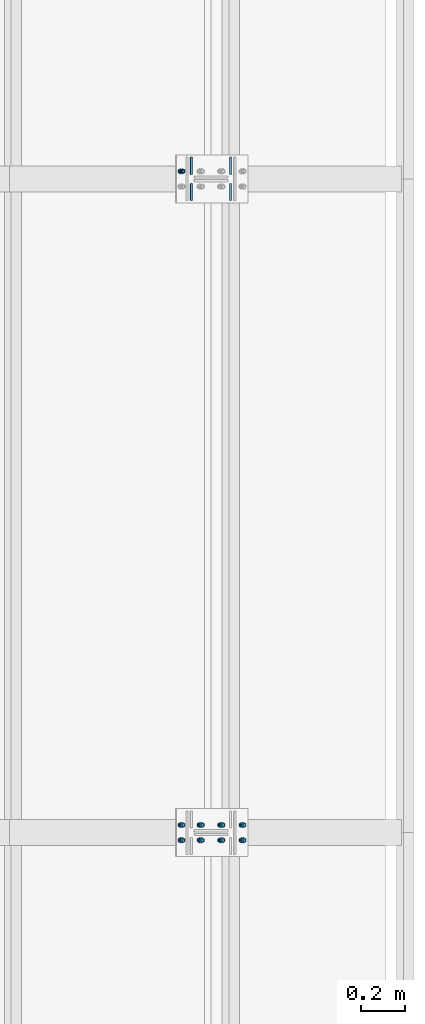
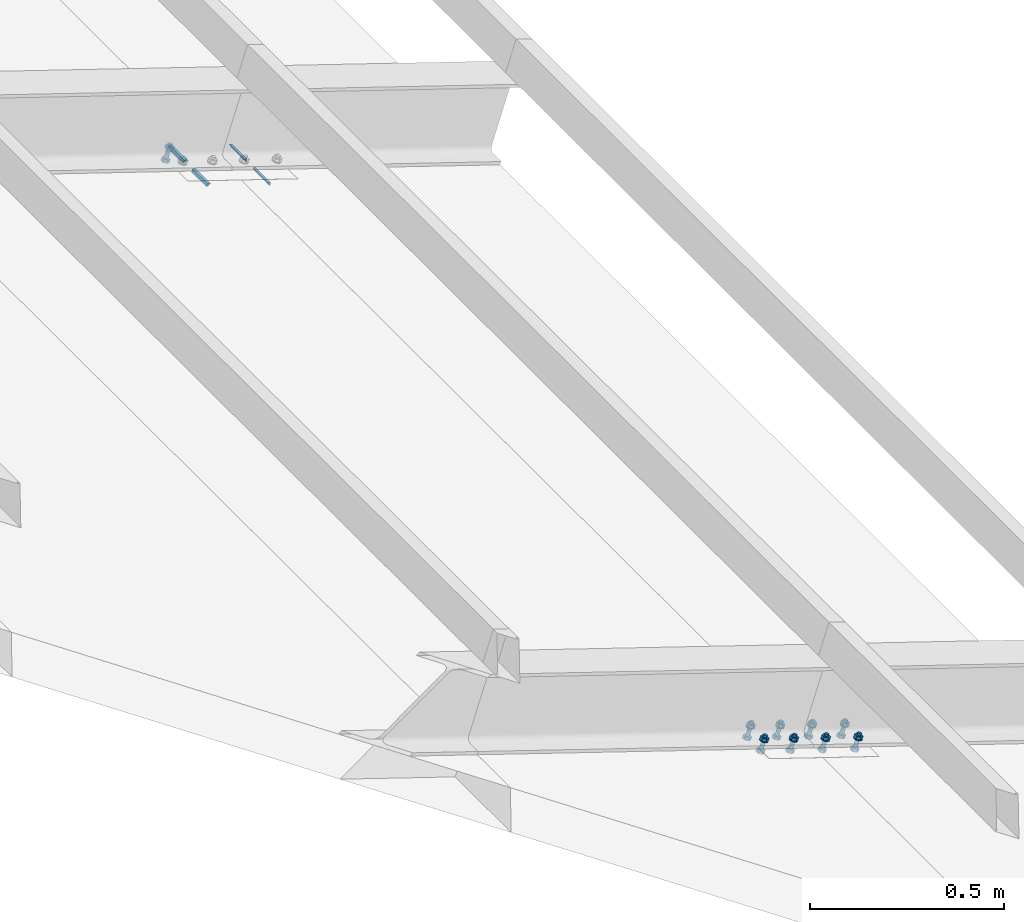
# One storey, part 31 of 53: 35 mechanical fasteners, 8 fasteners.
"""IFC4 building model written with IfcOpenShell, lengths in metres."""

from ifc_helpers import new_model, si_unit, frame, origin_with_axes, place, context, project, spatial, polyline, outline, extrude, type_object, element, save


model = new_model("IFC4")

# Units and contexts
model_context = context("Model", 3, precision=1e-05, world=origin_with_axes())
ifc_project = project(units=[si_unit("LENGTHUNIT", "METRE"), si_unit("AREAUNIT", "SQUARE_METRE"), si_unit("VOLUMEUNIT", "CUBIC_METRE"), si_unit("MASSUNIT", "GRAM", prefix="KILO"), si_unit("TIMEUNIT", "SECOND"), si_unit("PLANEANGLEUNIT", "RADIAN"), si_unit("SOLIDANGLEUNIT", "STERADIAN"), si_unit("THERMODYNAMICTEMPERATUREUNIT", "DEGREE_CELSIUS")], contexts=[model_context])

# Site, building, storey
placement_1 = place(None, origin_with_axes())
site = spatial("IfcSite", under=ifc_project, at=placement_1, Name="Italia", CompositionType="ELEMENT")
building = spatial("IfcBuilding", under=site, at=placement_1, Name="Capannone", CompositionType="ELEMENT")
storey_placement = place(None, frame((0.0, 0.0, 5.550000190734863), z_axis=(0.0, 0.0, 1.0), x_axis=(1.0, 0.0, 0.0)))
storey = spatial("IfcBuildingStorey", under=building, at=storey_placement, Name="Storey 1", CompositionType="ELEMENT", Elevation=5.550000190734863)

# Mechanical fasteners
mechanical_fastener_type_1 = type_object("IfcMechanicalFastenerType", Name="Collegamenti 0102_0002 0104_0004 0106_0006 0108_0008 0110_0010 0112_0012", PredefinedType="BOLT")
placement_2 = place(placement_1, origin_with_axes())
mechanical_fastener_1_placement = place(placement_2, origin_with_axes())
element("IfcMechanicalFastener", 1, at=mechanical_fastener_1_placement, inside=storey, type_object=mechanical_fastener_type_1, Name="Collegamenti 0102_0002 0104_0004 0106_0006 0108_0008 0110_0010 0112_0012", NominalDiameter=0.0119998, context=model_context, shape_type="SweptSolid", body=[
    extrude(outline(polyline([(0.0, 0.0), (-0.0119998, 0.0), (-0.0179999, 0.0103931), (-0.0119998, 0.0207853), (0.0, 0.0207853), (0.00600004, 0.0103931), (0.0, 0.0)])), frame((13.8697, 3.029, 5.57702), z_axis=(-0.312231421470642, 0.0, -0.950006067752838), x_axis=(0.0, -1.0, 0.0)), (0.0, 0.0, 1.0), 0.00959993),
])
mechanical_fastener_type_2 = type_object("IfcMechanicalFastenerType", Name="Collegamenti 0102_0002 0104_0004 0106_0006 0108_0008 0110_0010 0112_0012", PredefinedType="BOLT")
mechanical_fastener_2_placement = place(placement_2, origin_with_axes())
element("IfcMechanicalFastener", 2, at=mechanical_fastener_2_placement, inside=storey, type_object=mechanical_fastener_type_2, Name="Collegamenti 0102_0002 0104_0004 0106_0006 0108_0008 0110_0010 0112_0012", NominalDiameter=0.012, context=model_context, shape_type="SweptSolid", body=[
    extrude(outline(polyline([(0.0, 0.0), (-0.000204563, -0.00155354), (-0.000803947, -0.00300121), (-0.00175738, -0.0042429), (-0.00300002, -0.00519562), (-0.00444722, -0.00579548), (-0.00600004, -0.00599957), (-0.00755286, -0.00579548), (-0.00900006, -0.00519562), (-0.0102427, -0.0042429), (-0.0111961, -0.00300121), (-0.0117955, -0.00155354), (-0.0120001, 0.0), (-0.0117955, 0.00155258), (-0.0111961, 0.00300026), (-0.0102427, 0.00424194), (-0.00900006, 0.00519562), (-0.00755286, 0.00579548), (-0.00600004, 0.00599957), (-0.00444722, 0.00579548), (-0.00300002, 0.00519562), (-0.00175738, 0.00424194), (-0.000803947, 0.00300026), (-0.000204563, 0.00155258), (0.0, 0.0)])), frame((13.8732, 3.029, 5.62092), z_axis=(-0.312153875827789, 0.0, -0.950031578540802), x_axis=(0.0, -1.0, 0.0)), (0.0, 0.0, 1.0), 0.0427995),
])
mechanical_fastener_type_3 = type_object("IfcMechanicalFastenerType", Name="Collegamenti 0102_0002 0104_0004 0106_0006 0108_0008 0110_0010 0112_0012", PredefinedType="BOLT")
mechanical_fastener_3_placement = place(placement_2, origin_with_axes())
element("IfcMechanicalFastener", 3, at=mechanical_fastener_3_placement, inside=storey, type_object=mechanical_fastener_type_3, Name="Collegamenti 0102_0002 0104_0004 0106_0006 0108_0008 0110_0010 0112_0012", NominalDiameter=0.0119995, context=model_context, shape_type="SweptSolid", body=[
    extrude(outline(polyline([(0.0, 0.0), (-0.0119998, 0.0), (-0.0179999, 0.0103922), (-0.0119998, 0.0207844), (0.0, 0.0207844), (0.00600004, 0.0103922), (0.0, 0.0)])), frame((13.8811, 3.029, 5.6116), z_axis=(-0.312141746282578, 0.0, -0.950035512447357), x_axis=(0.0, -1.0, 0.0)), (0.0, 0.0, 1.0), 0.00959963),
])
mechanical_fastener_type_4 = type_object("IfcMechanicalFastenerType", Name="Collegamenti 0102_0002 0104_0004 0106_0006 0108_0008 0110_0010 0112_0012", PredefinedType="BOLT")
mechanical_fastener_4_placement = place(placement_2, origin_with_axes())
element("IfcMechanicalFastener", 4, at=mechanical_fastener_4_placement, inside=storey, type_object=mechanical_fastener_type_4, Name="Collegamenti 0102_0002 0104_0004 0106_0006 0108_0008 0110_0010 0112_0012", NominalDiameter=0.024, context=model_context, shape_type="SweptSolid", body=[
    extrude(outline(polyline([(0.0, 0.0), (-0.000408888, -0.00310612), (-0.00160789, -0.00600052), (-0.00351477, -0.00848484), (-0.00600004, -0.0103931), (-0.00889421, -0.011591), (-0.0120001, -0.0120001), (-0.015106, -0.011591), (-0.0180001, -0.0103931), (-0.0204854, -0.00848484), (-0.0223923, -0.00600052), (-0.0235913, -0.00310612), (-0.0240002, 0.0), (-0.0235913, 0.00310516), (-0.0223923, 0.00599957), (-0.0204854, 0.00848484), (-0.0180001, 0.0103922), (-0.015106, 0.01159), (-0.0120001, 0.0119991), (-0.00889421, 0.01159), (-0.00600004, 0.0103922), (-0.00351477, 0.00848484), (-0.00160789, 0.00599957), (-0.000408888, 0.00310516), (0.0, 0.0)])), frame((13.8682, 3.023, 5.60572), z_axis=(-0.312362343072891, 0.0, -0.94996303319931), x_axis=(0.0, -1.0, 0.0)), (0.0, 0.0, 1.0), 0.00199978),
])
mechanical_fastener_type_5 = type_object("IfcMechanicalFastenerType", Name="Collegamenti 0102_0002 0104_0004 0106_0006 0108_0008 0110_0010 0112_0012", PredefinedType="BOLT")
mechanical_fastener_5_placement = place(placement_2, origin_with_axes())
element("IfcMechanicalFastener", 5, at=mechanical_fastener_5_placement, inside=storey, type_object=mechanical_fastener_type_5, Name="Collegamenti 0102_0002 0104_0004 0106_0006 0108_0008 0110_0010 0112_0012", NominalDiameter=0.0119998, context=model_context, shape_type="SweptSolid", body=[
    extrude(outline(polyline([(0.0, 0.0), (-0.0119998, 0.0), (-0.0179999, 0.0103931), (-0.0119998, 0.0207853), (0.0, 0.0207853), (0.00600004, 0.0103931), (0.0, 0.0)])), frame((13.8697, 2.959, 5.57702), z_axis=(-0.312231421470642, 0.0, -0.950006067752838), x_axis=(0.0, -1.0, 0.0)), (0.0, 0.0, 1.0), 0.00959993),
])
mechanical_fastener_type_6 = type_object("IfcMechanicalFastenerType", Name="Collegamenti 0102_0002 0104_0004 0106_0006 0108_0008 0110_0010 0112_0012", PredefinedType="BOLT")
mechanical_fastener_6_placement = place(placement_2, origin_with_axes())
element("IfcMechanicalFastener", 6, at=mechanical_fastener_6_placement, inside=storey, type_object=mechanical_fastener_type_6, Name="Collegamenti 0102_0002 0104_0004 0106_0006 0108_0008 0110_0010 0112_0012", NominalDiameter=0.012, context=model_context, shape_type="SweptSolid", body=[
    extrude(outline(polyline([(0.0, 0.0), (-0.000204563, -0.00155354), (-0.000803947, -0.00300121), (-0.00175738, -0.0042429), (-0.00300002, -0.00519562), (-0.00444722, -0.00579548), (-0.00600004, -0.00599957), (-0.00755286, -0.00579548), (-0.00900006, -0.00519562), (-0.0102427, -0.0042429), (-0.0111961, -0.00300121), (-0.0117955, -0.00155354), (-0.0120001, 0.0), (-0.0117955, 0.00155258), (-0.0111961, 0.00300026), (-0.0102427, 0.00424194), (-0.00900006, 0.00519562), (-0.00755286, 0.00579548), (-0.00600004, 0.00599957), (-0.00444722, 0.00579548), (-0.00300002, 0.00519562), (-0.00175738, 0.00424194), (-0.000803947, 0.00300026), (-0.000204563, 0.00155258), (0.0, 0.0)])), frame((13.8732, 2.959, 5.62092), z_axis=(-0.312153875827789, 0.0, -0.950031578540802), x_axis=(0.0, -1.0, 0.0)), (0.0, 0.0, 1.0), 0.0427995),
])
mechanical_fastener_type_7 = type_object("IfcMechanicalFastenerType", Name="Collegamenti 0102_0002 0104_0004 0106_0006 0108_0008 0110_0010 0112_0012", PredefinedType="BOLT")
mechanical_fastener_7_placement = place(placement_2, origin_with_axes())
element("IfcMechanicalFastener", 7, at=mechanical_fastener_7_placement, inside=storey, type_object=mechanical_fastener_type_7, Name="Collegamenti 0102_0002 0104_0004 0106_0006 0108_0008 0110_0010 0112_0012", NominalDiameter=0.0119995, context=model_context, shape_type="SweptSolid", body=[
    extrude(outline(polyline([(0.0, 0.0), (-0.0119998, 0.0), (-0.0179999, 0.0103922), (-0.0119998, 0.0207844), (0.0, 0.0207844), (0.00600004, 0.0103922), (0.0, 0.0)])), frame((13.8811, 2.959, 5.6116), z_axis=(-0.312141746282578, 0.0, -0.950035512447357), x_axis=(0.0, -1.0, 0.0)), (0.0, 0.0, 1.0), 0.00959963),
])
mechanical_fastener_type_8 = type_object("IfcMechanicalFastenerType", Name="Collegamenti 0102_0002 0104_0004 0106_0006 0108_0008 0110_0010 0112_0012", PredefinedType="BOLT")
mechanical_fastener_8_placement = place(placement_2, origin_with_axes())
element("IfcMechanicalFastener", 8, at=mechanical_fastener_8_placement, inside=storey, type_object=mechanical_fastener_type_8, Name="Collegamenti 0102_0002 0104_0004 0106_0006 0108_0008 0110_0010 0112_0012", NominalDiameter=0.024, context=model_context, shape_type="SweptSolid", body=[
    extrude(outline(polyline([(0.0, 0.0), (-0.000408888, -0.00310612), (-0.00160789, -0.00600052), (-0.00351477, -0.00848484), (-0.00600004, -0.0103931), (-0.00889421, -0.011591), (-0.0120001, -0.0120001), (-0.015106, -0.011591), (-0.0180001, -0.0103931), (-0.0204854, -0.00848484), (-0.0223923, -0.00600052), (-0.0235913, -0.00310612), (-0.0240002, 0.0), (-0.0235913, 0.00310516), (-0.0223923, 0.00599957), (-0.0204854, 0.00848484), (-0.0180001, 0.0103922), (-0.015106, 0.01159), (-0.0120001, 0.0119991), (-0.00889421, 0.01159), (-0.00600004, 0.0103922), (-0.00351477, 0.00848484), (-0.00160789, 0.00599957), (-0.000408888, 0.00310516), (0.0, 0.0)])), frame((13.8682, 2.953, 5.60572), z_axis=(-0.312362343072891, 0.0, -0.94996303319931), x_axis=(0.0, -1.0, 0.0)), (0.0, 0.0, 1.0), 0.00199978),
])
mechanical_fastener_type_9 = type_object("IfcMechanicalFastenerType", Name="Collegamenti 0102_0002 0104_0004 0106_0006 0108_0008 0110_0010 0112_0012", PredefinedType="BOLT")
mechanical_fastener_9_placement = place(placement_2, origin_with_axes())
element("IfcMechanicalFastener", 9, at=mechanical_fastener_9_placement, inside=storey, type_object=mechanical_fastener_type_9, Name="Collegamenti 0102_0002 0104_0004 0106_0006 0108_0008 0110_0010 0112_0012", NominalDiameter=0.0119995, context=model_context, shape_type="SweptSolid", body=[
    extrude(outline(polyline([(0.0, 0.0), (-0.0119998, 0.0), (-0.0179999, 0.0103931), (-0.0119998, 0.0207844), (0.0, 0.0207844), (0.00600004, 0.0103931), (0.0, 0.0)])), frame((14.0527, 3.029, 5.5169), z_axis=(-0.312127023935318, 0.0, -0.950040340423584), x_axis=(0.0, -1.0, 0.0)), (0.0, 0.0, 1.0), 0.00960008),
])
mechanical_fastener_type_10 = type_object("IfcMechanicalFastenerType", Name="Collegamenti 0102_0002 0104_0004 0106_0006 0108_0008 0110_0010 0112_0012", PredefinedType="BOLT")
mechanical_fastener_10_placement = place(placement_2, origin_with_axes())
element("IfcMechanicalFastener", 10, at=mechanical_fastener_10_placement, inside=storey, type_object=mechanical_fastener_type_10, Name="Collegamenti 0102_0002 0104_0004 0106_0006 0108_0008 0110_0010 0112_0012", NominalDiameter=0.012, context=model_context, shape_type="SweptSolid", body=[
    extrude(outline(polyline([(0.0, 0.0), (-0.000204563, -0.00155258), (-0.000803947, -0.00300026), (-0.00175738, -0.00424194), (-0.00300002, -0.00519562), (-0.00444722, -0.00579453), (-0.00600004, -0.00599957), (-0.00755286, -0.00579453), (-0.00900006, -0.00519562), (-0.0102427, -0.00424194), (-0.0111961, -0.00300026), (-0.0117955, -0.00155258), (-0.0120001, 0.0), (-0.0117955, 0.00155354), (-0.0111961, 0.00300026), (-0.0102427, 0.00424194), (-0.00900006, 0.00519657), (-0.00755286, 0.00579548), (-0.00600004, 0.00600052), (-0.00444722, 0.00579548), (-0.00300002, 0.00519657), (-0.00175738, 0.00424194), (-0.000803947, 0.00300026), (-0.000204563, 0.00155354), (0.0, 0.0)])), frame((14.0562, 3.029, 5.5608), z_axis=(-0.312150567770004, 0.0, -0.950032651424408), x_axis=(0.0, -1.0, 0.0)), (0.0, 0.0, 1.0), 0.0427999),
])
mechanical_fastener_type_11 = type_object("IfcMechanicalFastenerType", Name="Collegamenti 0102_0002 0104_0004 0106_0006 0108_0008 0110_0010 0112_0012", PredefinedType="BOLT")
mechanical_fastener_11_placement = place(placement_2, origin_with_axes())
element("IfcMechanicalFastener", 11, at=mechanical_fastener_11_placement, inside=storey, type_object=mechanical_fastener_type_11, Name="Collegamenti 0102_0002 0104_0004 0106_0006 0108_0008 0110_0010 0112_0012", NominalDiameter=0.0119995, context=model_context, shape_type="SweptSolid", body=[
    extrude(outline(polyline([(0.0, 0.0), (-0.0119998, 0.0), (-0.0179999, 0.0103912), (-0.0119998, 0.0207834), (0.0, 0.0207834), (0.00600004, 0.0103912), (0.0, 0.0)])), frame((14.0641, 3.029, 5.55148), z_axis=(-0.312127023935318, 0.0, -0.950040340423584), x_axis=(0.0, -1.0, 0.0)), (0.0, 0.0, 1.0), 0.00960008),
])
mechanical_fastener_type_12 = type_object("IfcMechanicalFastenerType", Name="Collegamenti 0102_0002 0104_0004 0106_0006 0108_0008 0110_0010 0112_0012", PredefinedType="BOLT")
mechanical_fastener_12_placement = place(placement_2, origin_with_axes())
element("IfcMechanicalFastener", 12, at=mechanical_fastener_12_placement, inside=storey, type_object=mechanical_fastener_type_12, Name="Collegamenti 0102_0002 0104_0004 0106_0006 0108_0008 0110_0010 0112_0012", NominalDiameter=0.024, context=model_context, shape_type="SweptSolid", body=[
    extrude(outline(polyline([(0.0, 0.0), (-0.000408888, -0.00310516), (-0.00160789, -0.00599957), (-0.00351477, -0.00848579), (-0.00600004, -0.0103912), (-0.00889421, -0.011591), (-0.0120001, -0.0119991), (-0.015106, -0.011591), (-0.0180001, -0.0103912), (-0.0204854, -0.00848579), (-0.0223923, -0.00599957), (-0.0235913, -0.00310516), (-0.0240002, 0.0), (-0.0235913, 0.00310612), (-0.0223923, 0.00600052), (-0.0204854, 0.00848675), (-0.0180001, 0.0103922), (-0.015106, 0.011591), (-0.0120001, 0.0120001), (-0.00889421, 0.011591), (-0.00600004, 0.0103922), (-0.00351477, 0.00848675), (-0.00160789, 0.00600052), (-0.000408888, 0.00310612), (0.0, 0.0)])), frame((14.0512, 3.023, 5.5456), z_axis=(-0.311931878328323, 0.0, -0.950104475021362), x_axis=(0.0, -1.0, 0.0)), (0.0, 0.0, 1.0), 0.00199948),
])
mechanical_fastener_type_13 = type_object("IfcMechanicalFastenerType", Name="Collegamenti 0102_0002 0104_0004 0106_0006 0108_0008 0110_0010 0112_0012", PredefinedType="BOLT")
mechanical_fastener_13_placement = place(placement_2, origin_with_axes())
element("IfcMechanicalFastener", 13, at=mechanical_fastener_13_placement, inside=storey, type_object=mechanical_fastener_type_13, Name="Collegamenti 0102_0002 0104_0004 0106_0006 0108_0008 0110_0010 0112_0012", NominalDiameter=0.0119995, context=model_context, shape_type="SweptSolid", body=[
    extrude(outline(polyline([(0.0, 0.0), (-0.0119998, 0.0), (-0.0179999, 0.0103931), (-0.0119998, 0.0207844), (0.0, 0.0207844), (0.00600004, 0.0103931), (0.0, 0.0)])), frame((14.0527, 2.959, 5.5169), z_axis=(-0.312127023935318, 0.0, -0.950040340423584), x_axis=(0.0, -1.0, 0.0)), (0.0, 0.0, 1.0), 0.00960008),
])
mechanical_fastener_type_14 = type_object("IfcMechanicalFastenerType", Name="Collegamenti 0102_0002 0104_0004 0106_0006 0108_0008 0110_0010 0112_0012", PredefinedType="BOLT")
mechanical_fastener_14_placement = place(placement_2, origin_with_axes())
element("IfcMechanicalFastener", 14, at=mechanical_fastener_14_placement, inside=storey, type_object=mechanical_fastener_type_14, Name="Collegamenti 0102_0002 0104_0004 0106_0006 0108_0008 0110_0010 0112_0012", NominalDiameter=0.012, context=model_context, shape_type="SweptSolid", body=[
    extrude(outline(polyline([(0.0, 0.0), (-0.000204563, -0.00155258), (-0.000803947, -0.00300026), (-0.00175738, -0.00424194), (-0.00300002, -0.00519562), (-0.00444722, -0.00579453), (-0.00600004, -0.00599957), (-0.00755286, -0.00579453), (-0.00900006, -0.00519562), (-0.0102427, -0.00424194), (-0.0111961, -0.00300026), (-0.0117955, -0.00155258), (-0.0120001, 0.0), (-0.0117955, 0.00155354), (-0.0111961, 0.00300026), (-0.0102427, 0.00424194), (-0.00900006, 0.00519657), (-0.00755286, 0.00579548), (-0.00600004, 0.00600052), (-0.00444722, 0.00579548), (-0.00300002, 0.00519657), (-0.00175738, 0.00424194), (-0.000803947, 0.00300026), (-0.000204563, 0.00155354), (0.0, 0.0)])), frame((14.0562, 2.959, 5.5608), z_axis=(-0.312150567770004, 0.0, -0.950032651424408), x_axis=(0.0, -1.0, 0.0)), (0.0, 0.0, 1.0), 0.0427999),
])
mechanical_fastener_type_15 = type_object("IfcMechanicalFastenerType", Name="Collegamenti 0102_0002 0104_0004 0106_0006 0108_0008 0110_0010 0112_0012", PredefinedType="BOLT")
mechanical_fastener_15_placement = place(placement_2, origin_with_axes())
element("IfcMechanicalFastener", 15, at=mechanical_fastener_15_placement, inside=storey, type_object=mechanical_fastener_type_15, Name="Collegamenti 0102_0002 0104_0004 0106_0006 0108_0008 0110_0010 0112_0012", NominalDiameter=0.0119995, context=model_context, shape_type="SweptSolid", body=[
    extrude(outline(polyline([(0.0, 0.0), (-0.0119998, 0.0), (-0.0179999, 0.0103912), (-0.0119998, 0.0207834), (0.0, 0.0207834), (0.00600004, 0.0103912), (0.0, 0.0)])), frame((14.0641, 2.959, 5.55148), z_axis=(-0.312127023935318, 0.0, -0.950040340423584), x_axis=(0.0, -1.0, 0.0)), (0.0, 0.0, 1.0), 0.00960008),
])
mechanical_fastener_type_16 = type_object("IfcMechanicalFastenerType", Name="Collegamenti 0102_0002 0104_0004 0106_0006 0108_0008 0110_0010 0112_0012", PredefinedType="BOLT")
mechanical_fastener_16_placement = place(placement_2, origin_with_axes())
element("IfcMechanicalFastener", 16, at=mechanical_fastener_16_placement, inside=storey, type_object=mechanical_fastener_type_16, Name="Collegamenti 0102_0002 0104_0004 0106_0006 0108_0008 0110_0010 0112_0012", NominalDiameter=0.024, context=model_context, shape_type="SweptSolid", body=[
    extrude(outline(polyline([(0.0, 0.0), (-0.000408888, -0.00310516), (-0.00160789, -0.00599957), (-0.00351477, -0.00848579), (-0.00600004, -0.0103912), (-0.00889421, -0.011591), (-0.0120001, -0.0119991), (-0.015106, -0.011591), (-0.0180001, -0.0103912), (-0.0204854, -0.00848579), (-0.0223923, -0.00599957), (-0.0235913, -0.00310516), (-0.0240002, 0.0), (-0.0235913, 0.00310612), (-0.0223923, 0.00600052), (-0.0204854, 0.00848675), (-0.0180001, 0.0103922), (-0.015106, 0.011591), (-0.0120001, 0.0120001), (-0.00889421, 0.011591), (-0.00600004, 0.0103922), (-0.00351477, 0.00848675), (-0.00160789, 0.00600052), (-0.000408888, 0.00310612), (0.0, 0.0)])), frame((14.0512, 2.953, 5.5456), z_axis=(-0.311931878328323, 0.0, -0.950104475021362), x_axis=(0.0, -1.0, 0.0)), (0.0, 0.0, 1.0), 0.00199948),
])
mechanical_fastener_type_17 = type_object("IfcMechanicalFastenerType", Name="Collegamenti 0102_0002 0104_0004 0106_0006 0108_0008 0110_0010 0112_0012", PredefinedType="BOLT")
mechanical_fastener_17_placement = place(placement_2, origin_with_axes())
element("IfcMechanicalFastener", 17, at=mechanical_fastener_17_placement, inside=storey, type_object=mechanical_fastener_type_17, Name="Collegamenti 0102_0002 0104_0004 0106_0006 0108_0008 0110_0010 0112_0012", NominalDiameter=0.0119997, context=model_context, shape_type="SweptSolid", body=[
    extrude(outline(polyline([(0.0, 0.0), (-0.0119998, 0.0), (-0.0179999, 0.0103931), (-0.0119998, 0.0207853), (0.0, 0.0207853), (0.00600004, 0.0103931), (0.0, 0.0)])), frame((13.9577, 3.029, 5.54811), z_axis=(-0.312141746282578, 0.0, -0.950035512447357), x_axis=(0.0, -1.0, 0.0)), (0.0, 0.0, 1.0), 0.00959963),
])
mechanical_fastener_type_18 = type_object("IfcMechanicalFastenerType", Name="Collegamenti 0102_0002 0104_0004 0106_0006 0108_0008 0110_0010 0112_0012", PredefinedType="BOLT")
mechanical_fastener_18_placement = place(placement_2, origin_with_axes())
element("IfcMechanicalFastener", 18, at=mechanical_fastener_18_placement, inside=storey, type_object=mechanical_fastener_type_18, Name="Collegamenti 0102_0002 0104_0004 0106_0006 0108_0008 0110_0010 0112_0012", NominalDiameter=0.012, context=model_context, shape_type="SweptSolid", body=[
    extrude(outline(polyline([(0.0, 0.0), (-0.000204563, -0.00155354), (-0.000803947, -0.00300121), (-0.00175738, -0.00424194), (-0.00300002, -0.00519562), (-0.00444722, -0.00579453), (-0.00600004, -0.00599957), (-0.00755286, -0.00579453), (-0.00900006, -0.00519562), (-0.0102427, -0.00424194), (-0.0111961, -0.00300121), (-0.0117955, -0.00155354), (-0.0120001, 0.0), (-0.0117955, 0.00155354), (-0.0111961, 0.00300026), (-0.0102427, 0.00424194), (-0.00900006, 0.00519657), (-0.00755286, 0.00579548), (-0.00600004, 0.00599957), (-0.00444722, 0.00579548), (-0.00300002, 0.00519657), (-0.00175738, 0.00424194), (-0.000803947, 0.00300026), (-0.000204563, 0.00155354), (0.0, 0.0)])), frame((13.9612, 3.029, 5.59202), z_axis=(-0.312147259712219, 0.0, -0.950033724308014), x_axis=(0.0, -1.0, 0.0)), (0.0, 0.0, 1.0), 0.0428004),
])
mechanical_fastener_type_19 = type_object("IfcMechanicalFastenerType", Name="Collegamenti 0102_0002 0104_0004 0106_0006 0108_0008 0110_0010 0112_0012", PredefinedType="BOLT")
mechanical_fastener_19_placement = place(placement_2, origin_with_axes())
element("IfcMechanicalFastener", 19, at=mechanical_fastener_19_placement, inside=storey, type_object=mechanical_fastener_type_19, Name="Collegamenti 0102_0002 0104_0004 0106_0006 0108_0008 0110_0010 0112_0012", NominalDiameter=0.0119995, context=model_context, shape_type="SweptSolid", body=[
    extrude(outline(polyline([(0.0, 0.0), (-0.0119998, 0.0), (-0.0179999, 0.0103922), (-0.0119998, 0.0207844), (0.0, 0.0207844), (0.00600004, 0.0103922), (0.0, 0.0)])), frame((13.9691, 3.029, 5.5827), z_axis=(-0.312127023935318, 0.0, -0.950040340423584), x_axis=(0.0, -1.0, 0.0)), (0.0, 0.0, 1.0), 0.00960008),
])
mechanical_fastener_type_20 = type_object("IfcMechanicalFastenerType", Name="Collegamenti 0102_0002 0104_0004 0106_0006 0108_0008 0110_0010 0112_0012", PredefinedType="BOLT")
mechanical_fastener_20_placement = place(placement_2, origin_with_axes())
element("IfcMechanicalFastener", 20, at=mechanical_fastener_20_placement, inside=storey, type_object=mechanical_fastener_type_20, Name="Collegamenti 0102_0002 0104_0004 0106_0006 0108_0008 0110_0010 0112_0012", NominalDiameter=0.024, context=model_context, shape_type="SweptSolid", body=[
    extrude(outline(polyline([(0.0, 0.0), (-0.000408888, -0.00310516), (-0.00160789, -0.00600052), (-0.00351477, -0.00848484), (-0.00600004, -0.0103931), (-0.00889421, -0.011591), (-0.0120001, -0.0120001), (-0.015106, -0.011591), (-0.0180001, -0.0103931), (-0.0204854, -0.00848484), (-0.0223923, -0.00600052), (-0.0235913, -0.00310516), (-0.0240002, 0.0), (-0.0235913, 0.00310516), (-0.0223923, 0.00599957), (-0.0204854, 0.00848579), (-0.0180001, 0.0103922), (-0.015106, 0.011591), (-0.0120001, 0.0120001), (-0.00889421, 0.011591), (-0.00600004, 0.0103922), (-0.00351477, 0.00848579), (-0.00160789, 0.00599957), (-0.000408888, 0.00310516), (0.0, 0.0)])), frame((13.9562, 3.023, 5.57682), z_axis=(-0.311790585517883, 0.0, -0.950150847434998), x_axis=(0.0, -1.0, 0.0)), (0.0, 0.0, 1.0), 0.00200039),
])
mechanical_fastener_type_21 = type_object("IfcMechanicalFastenerType", Name="Collegamenti 0102_0002 0104_0004 0106_0006 0108_0008 0110_0010 0112_0012", PredefinedType="BOLT")
mechanical_fastener_21_placement = place(placement_2, origin_with_axes())
element("IfcMechanicalFastener", 21, at=mechanical_fastener_21_placement, inside=storey, type_object=mechanical_fastener_type_21, Name="Collegamenti 0102_0002 0104_0004 0106_0006 0108_0008 0110_0010 0112_0012", NominalDiameter=0.0119997, context=model_context, shape_type="SweptSolid", body=[
    extrude(outline(polyline([(0.0, 0.0), (-0.0119998, 0.0), (-0.0179999, 0.0103931), (-0.0119998, 0.0207853), (0.0, 0.0207853), (0.00600004, 0.0103931), (0.0, 0.0)])), frame((13.9577, 2.959, 5.54811), z_axis=(-0.312141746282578, 0.0, -0.950035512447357), x_axis=(0.0, -1.0, 0.0)), (0.0, 0.0, 1.0), 0.00959963),
])
mechanical_fastener_type_22 = type_object("IfcMechanicalFastenerType", Name="Collegamenti 0102_0002 0104_0004 0106_0006 0108_0008 0110_0010 0112_0012", PredefinedType="BOLT")
mechanical_fastener_22_placement = place(placement_2, origin_with_axes())
element("IfcMechanicalFastener", 22, at=mechanical_fastener_22_placement, inside=storey, type_object=mechanical_fastener_type_22, Name="Collegamenti 0102_0002 0104_0004 0106_0006 0108_0008 0110_0010 0112_0012", NominalDiameter=0.012, context=model_context, shape_type="SweptSolid", body=[
    extrude(outline(polyline([(0.0, 0.0), (-0.000204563, -0.00155354), (-0.000803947, -0.00300121), (-0.00175738, -0.00424194), (-0.00300002, -0.00519562), (-0.00444722, -0.00579453), (-0.00600004, -0.00599957), (-0.00755286, -0.00579453), (-0.00900006, -0.00519562), (-0.0102427, -0.00424194), (-0.0111961, -0.00300121), (-0.0117955, -0.00155354), (-0.0120001, 0.0), (-0.0117955, 0.00155354), (-0.0111961, 0.00300026), (-0.0102427, 0.00424194), (-0.00900006, 0.00519657), (-0.00755286, 0.00579548), (-0.00600004, 0.00599957), (-0.00444722, 0.00579548), (-0.00300002, 0.00519657), (-0.00175738, 0.00424194), (-0.000803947, 0.00300026), (-0.000204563, 0.00155354), (0.0, 0.0)])), frame((13.9612, 2.959, 5.59202), z_axis=(-0.312147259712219, 0.0, -0.950033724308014), x_axis=(0.0, -1.0, 0.0)), (0.0, 0.0, 1.0), 0.0428004),
])
mechanical_fastener_type_23 = type_object("IfcMechanicalFastenerType", Name="Collegamenti 0102_0002 0104_0004 0106_0006 0108_0008 0110_0010 0112_0012", PredefinedType="BOLT")
mechanical_fastener_23_placement = place(placement_2, origin_with_axes())
element("IfcMechanicalFastener", 23, at=mechanical_fastener_23_placement, inside=storey, type_object=mechanical_fastener_type_23, Name="Collegamenti 0102_0002 0104_0004 0106_0006 0108_0008 0110_0010 0112_0012", NominalDiameter=0.0119995, context=model_context, shape_type="SweptSolid", body=[
    extrude(outline(polyline([(0.0, 0.0), (-0.0119998, 0.0), (-0.0179999, 0.0103922), (-0.0119998, 0.0207844), (0.0, 0.0207844), (0.00600004, 0.0103922), (0.0, 0.0)])), frame((13.9691, 2.959, 5.5827), z_axis=(-0.312127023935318, 0.0, -0.950040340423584), x_axis=(0.0, -1.0, 0.0)), (0.0, 0.0, 1.0), 0.00960008),
])
mechanical_fastener_type_24 = type_object("IfcMechanicalFastenerType", Name="Collegamenti 0102_0002 0104_0004 0106_0006 0108_0008 0110_0010 0112_0012", PredefinedType="BOLT")
mechanical_fastener_24_placement = place(placement_2, origin_with_axes())
element("IfcMechanicalFastener", 24, at=mechanical_fastener_24_placement, inside=storey, type_object=mechanical_fastener_type_24, Name="Collegamenti 0102_0002 0104_0004 0106_0006 0108_0008 0110_0010 0112_0012", NominalDiameter=0.024, context=model_context, shape_type="SweptSolid", body=[
    extrude(outline(polyline([(0.0, 0.0), (-0.000408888, -0.00310516), (-0.00160789, -0.00600052), (-0.00351477, -0.00848484), (-0.00600004, -0.0103931), (-0.00889421, -0.011591), (-0.0120001, -0.0120001), (-0.015106, -0.011591), (-0.0180001, -0.0103931), (-0.0204854, -0.00848484), (-0.0223923, -0.00600052), (-0.0235913, -0.00310516), (-0.0240002, 0.0), (-0.0235913, 0.00310516), (-0.0223923, 0.00599957), (-0.0204854, 0.00848579), (-0.0180001, 0.0103922), (-0.015106, 0.011591), (-0.0120001, 0.0120001), (-0.00889421, 0.011591), (-0.00600004, 0.0103922), (-0.00351477, 0.00848579), (-0.00160789, 0.00599957), (-0.000408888, 0.00310516), (0.0, 0.0)])), frame((13.9562, 2.953, 5.57682), z_axis=(-0.311790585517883, 0.0, -0.950150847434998), x_axis=(0.0, -1.0, 0.0)), (0.0, 0.0, 1.0), 0.00200039),
])
mechanical_fastener_type_25 = type_object("IfcMechanicalFastenerType", Name="Collegamenti 0102_0002 0104_0004 0106_0006 0108_0008 0110_0010 0112_0012", PredefinedType="BOLT")
mechanical_fastener_25_placement = place(placement_2, origin_with_axes())
element("IfcMechanicalFastener", 25, at=mechanical_fastener_25_placement, inside=storey, type_object=mechanical_fastener_type_25, Name="Collegamenti 0102_0002 0104_0004 0106_0006 0108_0008 0110_0010 0112_0012", NominalDiameter=0.0119998, context=model_context, shape_type="SweptSolid", body=[
    extrude(outline(polyline([(0.0, 0.0), (-0.0119998, 0.0), (-0.0179999, 0.0103922), (-0.0119998, 0.0207853), (0.0, 0.0207853), (0.00600004, 0.0103922), (0.0, 0.0)])), frame((14.15, 3.029, 5.48493), z_axis=(-0.312216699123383, 0.0, -0.950010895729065), x_axis=(0.0, -1.0, 0.0)), (0.0, 0.0, 1.0), 0.00960038),
])
mechanical_fastener_type_26 = type_object("IfcMechanicalFastenerType", Name="Collegamenti 0102_0002 0104_0004 0106_0006 0108_0008 0110_0010 0112_0012", PredefinedType="BOLT")
mechanical_fastener_26_placement = place(placement_2, origin_with_axes())
element("IfcMechanicalFastener", 26, at=mechanical_fastener_26_placement, inside=storey, type_object=mechanical_fastener_type_26, Name="Collegamenti 0102_0002 0104_0004 0106_0006 0108_0008 0110_0010 0112_0012", NominalDiameter=0.012, context=model_context, shape_type="SweptSolid", body=[
    extrude(outline(polyline([(0.0, 0.0), (-0.000204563, -0.00155163), (-0.000803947, -0.00299931), (-0.00175738, -0.00424099), (-0.00300002, -0.00519562), (-0.00444722, -0.00579453), (-0.00600004, -0.00599957), (-0.00755286, -0.00579453), (-0.00900006, -0.00519562), (-0.0102427, -0.00424099), (-0.0111961, -0.00299931), (-0.0117955, -0.00155163), (-0.0120001, 0.0), (-0.0117955, 0.00155354), (-0.0111961, 0.00300121), (-0.0102427, 0.0042429), (-0.00900006, 0.00519657), (-0.00755286, 0.00579548), (-0.00600004, 0.00600052), (-0.00444722, 0.00579548), (-0.00300002, 0.00519657), (-0.00175738, 0.0042429), (-0.000803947, 0.00300121), (-0.000204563, 0.00155354), (0.0, 0.0)])), frame((14.1535, 3.029, 5.52884), z_axis=(-0.312150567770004, 0.0, -0.950032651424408), x_axis=(0.0, -1.0, 0.0)), (0.0, 0.0, 1.0), 0.0427999),
])
mechanical_fastener_type_27 = type_object("IfcMechanicalFastenerType", Name="Collegamenti 0102_0002 0104_0004 0106_0006 0108_0008 0110_0010 0112_0012", PredefinedType="BOLT")
mechanical_fastener_27_placement = place(placement_2, origin_with_axes())
element("IfcMechanicalFastener", 27, at=mechanical_fastener_27_placement, inside=storey, type_object=mechanical_fastener_type_27, Name="Collegamenti 0102_0002 0104_0004 0106_0006 0108_0008 0110_0010 0112_0012", NominalDiameter=0.0119995, context=model_context, shape_type="SweptSolid", body=[
    extrude(outline(polyline([(0.0, 0.0), (-0.0119998, 0.0), (-0.0179999, 0.0103931), (-0.0119998, 0.0207853), (0.0, 0.0207853), (0.00600004, 0.0103931), (0.0, 0.0)])), frame((14.1613, 3.029, 5.51952), z_axis=(-0.312127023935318, 0.0, -0.950040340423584), x_axis=(0.0, -1.0, 0.0)), (0.0, 0.0, 1.0), 0.00960008),
])
mechanical_fastener_type_28 = type_object("IfcMechanicalFastenerType", Name="Collegamenti 0102_0002 0104_0004 0106_0006 0108_0008 0110_0010 0112_0012", PredefinedType="BOLT")
mechanical_fastener_28_placement = place(placement_2, origin_with_axes())
element("IfcMechanicalFastener", 28, at=mechanical_fastener_28_placement, inside=storey, type_object=mechanical_fastener_type_28, Name="Collegamenti 0102_0002 0104_0004 0106_0006 0108_0008 0110_0010 0112_0012", NominalDiameter=0.024, context=model_context, shape_type="SweptSolid", body=[
    extrude(outline(polyline([(0.0, 0.0), (-0.000408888, -0.00310612), (-0.00160789, -0.00600052), (-0.00351477, -0.00848484), (-0.00600004, -0.0103922), (-0.00889421, -0.011591), (-0.0120001, -0.0120001), (-0.015106, -0.011591), (-0.0180001, -0.0103922), (-0.0204854, -0.00848484), (-0.0223923, -0.00600052), (-0.0235913, -0.00310612), (-0.0240002, 0.0), (-0.0235913, 0.00310612), (-0.0223923, 0.00599957), (-0.0204854, 0.00848579), (-0.0180001, 0.0103922), (-0.015106, 0.0115919), (-0.0120001, 0.0120001), (-0.00889421, 0.0115919), (-0.00600004, 0.0103922), (-0.00351477, 0.00848579), (-0.00160789, 0.00599957), (-0.000408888, 0.00310612), (0.0, 0.0)])), frame((14.1485, 3.023, 5.51364), z_axis=(-0.311790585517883, 0.0, -0.950150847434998), x_axis=(0.0, -1.0, 0.0)), (0.0, 0.0, 1.0), 0.00200039),
])
mechanical_fastener_type_29 = type_object("IfcMechanicalFastenerType", Name="Collegamenti 0102_0002 0104_0004 0106_0006 0108_0008 0110_0010 0112_0012", PredefinedType="BOLT")
mechanical_fastener_29_placement = place(placement_2, origin_with_axes())
element("IfcMechanicalFastener", 29, at=mechanical_fastener_29_placement, inside=storey, type_object=mechanical_fastener_type_29, Name="Collegamenti 0102_0002 0104_0004 0106_0006 0108_0008 0110_0010 0112_0012", NominalDiameter=0.0119998, context=model_context, shape_type="SweptSolid", body=[
    extrude(outline(polyline([(0.0, 0.0), (-0.0119998, 0.0), (-0.0179999, 0.0103922), (-0.0119998, 0.0207853), (0.0, 0.0207853), (0.00600004, 0.0103922), (0.0, 0.0)])), frame((14.15, 2.959, 5.48493), z_axis=(-0.312216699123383, 0.0, -0.950010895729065), x_axis=(0.0, -1.0, 0.0)), (0.0, 0.0, 1.0), 0.00960038),
])
mechanical_fastener_type_30 = type_object("IfcMechanicalFastenerType", Name="Collegamenti 0102_0002 0104_0004 0106_0006 0108_0008 0110_0010 0112_0012", PredefinedType="BOLT")
mechanical_fastener_30_placement = place(placement_2, origin_with_axes())
element("IfcMechanicalFastener", 30, at=mechanical_fastener_30_placement, inside=storey, type_object=mechanical_fastener_type_30, Name="Collegamenti 0102_0002 0104_0004 0106_0006 0108_0008 0110_0010 0112_0012", NominalDiameter=0.012, context=model_context, shape_type="SweptSolid", body=[
    extrude(outline(polyline([(0.0, 0.0), (-0.000204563, -0.00155163), (-0.000803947, -0.00299931), (-0.00175738, -0.00424099), (-0.00300002, -0.00519562), (-0.00444722, -0.00579453), (-0.00600004, -0.00599957), (-0.00755286, -0.00579453), (-0.00900006, -0.00519562), (-0.0102427, -0.00424099), (-0.0111961, -0.00299931), (-0.0117955, -0.00155163), (-0.0120001, 0.0), (-0.0117955, 0.00155354), (-0.0111961, 0.00300121), (-0.0102427, 0.0042429), (-0.00900006, 0.00519657), (-0.00755286, 0.00579548), (-0.00600004, 0.00600052), (-0.00444722, 0.00579548), (-0.00300002, 0.00519657), (-0.00175738, 0.0042429), (-0.000803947, 0.00300121), (-0.000204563, 0.00155354), (0.0, 0.0)])), frame((14.1535, 2.959, 5.52884), z_axis=(-0.312150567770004, 0.0, -0.950032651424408), x_axis=(0.0, -1.0, 0.0)), (0.0, 0.0, 1.0), 0.0427999),
])
mechanical_fastener_type_31 = type_object("IfcMechanicalFastenerType", Name="Collegamenti 0102_0002 0104_0004 0106_0006 0108_0008 0110_0010 0112_0012", PredefinedType="BOLT")
mechanical_fastener_31_placement = place(placement_2, origin_with_axes())
element("IfcMechanicalFastener", 31, at=mechanical_fastener_31_placement, inside=storey, type_object=mechanical_fastener_type_31, Name="Collegamenti 0102_0002 0104_0004 0106_0006 0108_0008 0110_0010 0112_0012", NominalDiameter=0.0119995, context=model_context, shape_type="SweptSolid", body=[
    extrude(outline(polyline([(0.0, 0.0), (-0.0119998, 0.0), (-0.0179999, 0.0103931), (-0.0119998, 0.0207853), (0.0, 0.0207853), (0.00600004, 0.0103931), (0.0, 0.0)])), frame((14.1613, 2.959, 5.51952), z_axis=(-0.312127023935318, 0.0, -0.950040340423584), x_axis=(0.0, -1.0, 0.0)), (0.0, 0.0, 1.0), 0.00960008),
])
mechanical_fastener_type_32 = type_object("IfcMechanicalFastenerType", Name="Collegamenti 0102_0002 0104_0004 0106_0006 0108_0008 0110_0010 0112_0012", PredefinedType="BOLT")
mechanical_fastener_32_placement = place(placement_2, origin_with_axes())
element("IfcMechanicalFastener", 32, at=mechanical_fastener_32_placement, inside=storey, type_object=mechanical_fastener_type_32, Name="Collegamenti 0102_0002 0104_0004 0106_0006 0108_0008 0110_0010 0112_0012", NominalDiameter=0.024, context=model_context, shape_type="SweptSolid", body=[
    extrude(outline(polyline([(0.0, 0.0), (-0.000408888, -0.00310612), (-0.00160789, -0.00600052), (-0.00351477, -0.00848484), (-0.00600004, -0.0103922), (-0.00889421, -0.011591), (-0.0120001, -0.0120001), (-0.015106, -0.011591), (-0.0180001, -0.0103922), (-0.0204854, -0.00848484), (-0.0223923, -0.00600052), (-0.0235913, -0.00310612), (-0.0240002, 0.0), (-0.0235913, 0.00310612), (-0.0223923, 0.00599957), (-0.0204854, 0.00848579), (-0.0180001, 0.0103922), (-0.015106, 0.0115919), (-0.0120001, 0.0120001), (-0.00889421, 0.0115919), (-0.00600004, 0.0103922), (-0.00351477, 0.00848579), (-0.00160789, 0.00599957), (-0.000408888, 0.00310612), (0.0, 0.0)])), frame((14.1485, 2.953, 5.51364), z_axis=(-0.311790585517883, 0.0, -0.950150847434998), x_axis=(0.0, -1.0, 0.0)), (0.0, 0.0, 1.0), 0.00200039),
])

# Fasteners
fastener_type_1 = type_object("IfcFastenerType", Name="Collegamenti 0102_0002 0104_0004 0106_0006 0108_0008 0110_0010 0112_0012", PredefinedType="WELD")
fastener_1_placement = place(placement_2, origin_with_axes())
element("IfcFastener", 33, at=fastener_1_placement, inside=storey, type_object=fastener_type_1, Name="Collegamenti 0102_0002 0104_0004 0106_0006 0108_0008 0110_0010 0112_0012", context=model_context, shape_type="SweptSolid", body=[
    extrude(outline(polyline([(0.0, 0.0), (-0.0125504, -0.00658464), (-0.00937462, 0.00308037), (0.0, 0.0)])), frame((13.9153, 6.10005, 5.56208), z_axis=(0.0, -1.0, 0.0), x_axis=(1.0, 0.0, 0.0)), (0.0, 0.0, 1.0), 0.0785999),
])
fastener_type_2 = type_object("IfcFastenerType", Name="Collegamenti 0102_0002 0104_0004 0106_0006 0108_0008 0110_0010 0112_0012", PredefinedType="WELD")
fastener_2_placement = place(placement_2, origin_with_axes())
element("IfcFastener", 34, at=fastener_2_placement, inside=storey, type_object=fastener_type_2, Name="Collegamenti 0102_0002 0104_0004 0106_0006 0108_0008 0110_0010 0112_0012", context=model_context, shape_type="SweptSolid", body=[
    extrude(outline(polyline([(0.0, 0.0), (-0.00619984, -0.0127454), (-0.00937557, -0.00308037), (0.0, 0.0)])), frame((14.0847, 6.02145, 5.50644), z_axis=(0.0, 1.0, 0.0), x_axis=(-1.0, 0.0, 0.0)), (0.0, 0.0, 1.0), 0.0785999),
])
fastener_type_3 = type_object("IfcFastenerType", Name="Collegamenti 0102_0002 0104_0004 0106_0006 0108_0008 0110_0010 0112_0012", PredefinedType="WELD")
fastener_3_placement = place(placement_2, origin_with_axes())
element("IfcFastener", 35, at=fastener_3_placement, inside=storey, type_object=fastener_type_3, Name="Collegamenti 0102_0002 0104_0004 0106_0006 0108_0008 0110_0010 0112_0012", context=model_context, shape_type="SweptSolid", body=[
    extrude(outline(polyline([(0.0, 0.0), (-0.00619984, -0.0127454), (-0.00937557, -0.00308037), (0.0, 0.0)])), frame((14.0847, 5.89995, 5.50644), z_axis=(0.0, 1.0, 0.0), x_axis=(-1.0, 0.0, 0.0)), (0.0, 0.0, 1.0), 0.0785999),
])
fastener_type_4 = type_object("IfcFastenerType", Name="Collegamenti 0102_0002 0104_0004 0106_0006 0108_0008 0110_0010 0112_0012", PredefinedType="WELD")
fastener_4_placement = place(placement_2, origin_with_axes())
element("IfcFastener", 36, at=fastener_4_placement, inside=storey, type_object=fastener_type_4, Name="Collegamenti 0102_0002 0104_0004 0106_0006 0108_0008 0110_0010 0112_0012", context=model_context, shape_type="SweptSolid", body=[
    extrude(outline(polyline([(0.0, 0.0), (-0.0125504, -0.00658464), (-0.00937462, 0.00308037), (0.0, 0.0)])), frame((13.9153, 5.97855, 5.56208), z_axis=(0.0, -1.0, 0.0), x_axis=(1.0, 0.0, 0.0)), (0.0, 0.0, 1.0), 0.0785999),
])
fastener_type_5 = type_object("IfcFastenerType", Name="Collegamenti 0102_0002 0104_0004 0106_0006 0108_0008 0110_0010 0112_0012", PredefinedType="WELD")
fastener_5_placement = place(placement_2, origin_with_axes())
element("IfcFastener", 37, at=fastener_5_placement, inside=storey, type_object=fastener_type_5, Name="Collegamenti 0102_0002 0104_0004 0106_0006 0108_0008 0110_0010 0112_0012", context=model_context, shape_type="SweptSolid", body=[
    extrude(outline(polyline([(0.0, 0.0), (-0.0125504, -0.00658464), (-0.00937462, 0.00308037), (0.0, 0.0)])), frame((13.9153, 6.10005, 5.56208), z_axis=(0.0, -1.0, 0.0), x_axis=(1.0, 0.0, 0.0)), (0.0, 0.0, 1.0), 0.0785999),
])
fastener_type_6 = type_object("IfcFastenerType", Name="Collegamenti 0102_0002 0104_0004 0106_0006 0108_0008 0110_0010 0112_0012", PredefinedType="WELD")
fastener_6_placement = place(placement_2, origin_with_axes())
element("IfcFastener", 38, at=fastener_6_placement, inside=storey, type_object=fastener_type_6, Name="Collegamenti 0102_0002 0104_0004 0106_0006 0108_0008 0110_0010 0112_0012", context=model_context, shape_type="SweptSolid", body=[
    extrude(outline(polyline([(0.0, 0.0), (-0.00619984, -0.0127454), (-0.00937557, -0.00308037), (0.0, 0.0)])), frame((14.0847, 6.02145, 5.50644), z_axis=(0.0, 1.0, 0.0), x_axis=(-1.0, 0.0, 0.0)), (0.0, 0.0, 1.0), 0.0785999),
])
fastener_type_7 = type_object("IfcFastenerType", Name="Collegamenti 0102_0002 0104_0004 0106_0006 0108_0008 0110_0010 0112_0012", PredefinedType="WELD")
fastener_7_placement = place(placement_2, origin_with_axes())
element("IfcFastener", 39, at=fastener_7_placement, inside=storey, type_object=fastener_type_7, Name="Collegamenti 0102_0002 0104_0004 0106_0006 0108_0008 0110_0010 0112_0012", context=model_context, shape_type="SweptSolid", body=[
    extrude(outline(polyline([(0.0, 0.0), (-0.00619984, -0.0127454), (-0.00937557, -0.00308037), (0.0, 0.0)])), frame((14.0847, 5.89995, 5.50644), z_axis=(0.0, 1.0, 0.0), x_axis=(-1.0, 0.0, 0.0)), (0.0, 0.0, 1.0), 0.0785999),
])
fastener_type_8 = type_object("IfcFastenerType", Name="Collegamenti 0102_0002 0104_0004 0106_0006 0108_0008 0110_0010 0112_0012", PredefinedType="WELD")
fastener_8_placement = place(placement_2, origin_with_axes())
element("IfcFastener", 40, at=fastener_8_placement, inside=storey, type_object=fastener_type_8, Name="Collegamenti 0102_0002 0104_0004 0106_0006 0108_0008 0110_0010 0112_0012", context=model_context, shape_type="SweptSolid", body=[
    extrude(outline(polyline([(0.0, 0.0), (-0.0125504, -0.00658464), (-0.00937462, 0.00308037), (0.0, 0.0)])), frame((13.9153, 5.97855, 5.56208), z_axis=(0.0, -1.0, 0.0), x_axis=(1.0, 0.0, 0.0)), (0.0, 0.0, 1.0), 0.0785999),
])

# Mechanical fasteners
mechanical_fastener_type_33 = type_object("IfcMechanicalFastenerType", Name="Collegamenti 0102_0002 0104_0004 0106_0006 0108_0008 0110_0010 0112_0012", PredefinedType="BOLT")
mechanical_fastener_33_placement = place(placement_2, origin_with_axes())
element("IfcMechanicalFastener", 41, at=mechanical_fastener_33_placement, inside=storey, type_object=mechanical_fastener_type_33, Name="Collegamenti 0102_0002 0104_0004 0106_0006 0108_0008 0110_0010 0112_0012", NominalDiameter=0.0120001, context=model_context, shape_type="SweptSolid", body=[
    extrude(outline(polyline([(0.0, 0.0), (-0.0120001, 0.0), (-0.0180001, 0.0103931), (-0.0120001, 0.0207853), (0.0, 0.0207853), (0.00600004, 0.0103931), (0.0, 0.0)])), frame((13.8697, 6.029, 5.57702), z_axis=(-0.312231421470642, 0.0, -0.950006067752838), x_axis=(0.0, -1.0, 0.0)), (0.0, 0.0, 1.0), 0.00959993),
])
mechanical_fastener_type_34 = type_object("IfcMechanicalFastenerType", Name="Collegamenti 0102_0002 0104_0004 0106_0006 0108_0008 0110_0010 0112_0012", PredefinedType="BOLT")
mechanical_fastener_34_placement = place(placement_2, origin_with_axes())
element("IfcMechanicalFastener", 42, at=mechanical_fastener_34_placement, inside=storey, type_object=mechanical_fastener_type_34, Name="Collegamenti 0102_0002 0104_0004 0106_0006 0108_0008 0110_0010 0112_0012", NominalDiameter=0.012, context=model_context, shape_type="SweptSolid", body=[
    extrude(outline(polyline([(0.0, 0.0), (-0.000204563, -0.00155354), (-0.000803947, -0.00300121), (-0.00175762, -0.0042429), (-0.00300026, -0.00519562), (-0.00444698, -0.00579548), (-0.00600004, -0.00599957), (-0.0075531, -0.00579548), (-0.00899982, -0.00519562), (-0.0102425, -0.0042429), (-0.0111961, -0.00300121), (-0.0117955, -0.00155354), (-0.0120001, 0.0), (-0.0117955, 0.00155258), (-0.0111961, 0.00300026), (-0.0102425, 0.00424194), (-0.00899982, 0.00519562), (-0.0075531, 0.00579548), (-0.00600004, 0.00599957), (-0.00444698, 0.00579548), (-0.00300026, 0.00519562), (-0.00175762, 0.00424194), (-0.000803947, 0.00300026), (-0.000204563, 0.00155258), (0.0, 0.0)])), frame((13.8732, 6.029, 5.62092), z_axis=(-0.312153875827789, 0.0, -0.950031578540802), x_axis=(0.0, -1.0, 0.0)), (0.0, 0.0, 1.0), 0.0427995),
])
mechanical_fastener_type_35 = type_object("IfcMechanicalFastenerType", Name="Collegamenti 0102_0002 0104_0004 0106_0006 0108_0008 0110_0010 0112_0012", PredefinedType="BOLT")
mechanical_fastener_35_placement = place(placement_2, origin_with_axes())
element("IfcMechanicalFastener", 43, at=mechanical_fastener_35_placement, inside=storey, type_object=mechanical_fastener_type_35, Name="Collegamenti 0102_0002 0104_0004 0106_0006 0108_0008 0110_0010 0112_0012", NominalDiameter=0.0119995, context=model_context, shape_type="SweptSolid", body=[
    extrude(outline(polyline([(0.0, 0.0), (-0.0120001, 0.0), (-0.0180001, 0.0103922), (-0.0120001, 0.0207844), (0.0, 0.0207844), (0.00600004, 0.0103922), (0.0, 0.0)])), frame((13.8811, 6.029, 5.6116), z_axis=(-0.312141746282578, 0.0, -0.950035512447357), x_axis=(0.0, -1.0, 0.0)), (0.0, 0.0, 1.0), 0.00959963),
])

save(model, "model.ifc")
